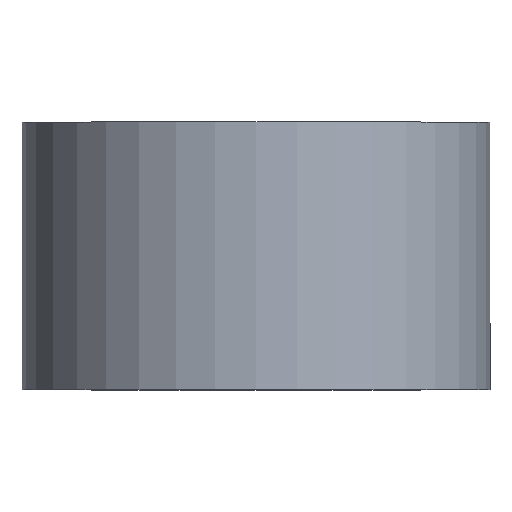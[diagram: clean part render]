
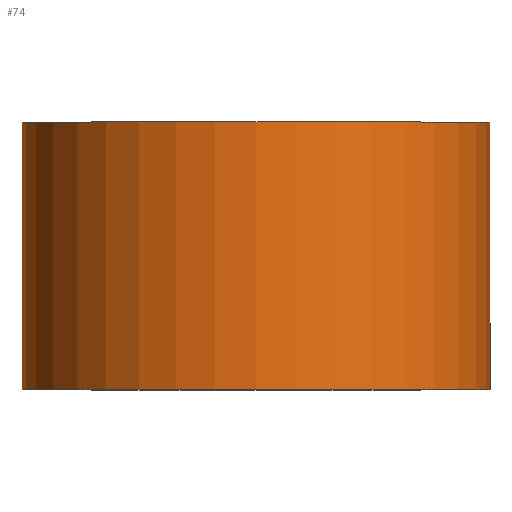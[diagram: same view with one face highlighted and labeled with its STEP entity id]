
A CAD part, top view. The second image highlights one B-rep face of the part: STEP entity #74.
In plain terms, the highlighted cylindrical face has radius 17.5 mm (diameter 35 mm), a partial arc.
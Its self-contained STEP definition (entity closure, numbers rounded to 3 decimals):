
#8 = ORIENTED_EDGE ( 'NONE', *, *, #127, .F. ) ;
#13 = VERTEX_POINT ( 'NONE', #14 ) ;
#14 = CARTESIAN_POINT ( 'NONE',  ( 17.5, 0., 0. ) ) ;
#22 = DIRECTION ( 'NONE',  ( 0., 1., 0. ) ) ;
#33 = CARTESIAN_POINT ( 'NONE',  ( 0., 20., 0. ) ) ;
#35 = VECTOR ( 'NONE', #91, 1000. ) ;
#53 = VERTEX_POINT ( 'NONE', #199 ) ;
#61 = DIRECTION ( 'NONE',  ( -1., 0., 0. ) ) ;
#70 = ORIENTED_EDGE ( 'NONE', *, *, #90, .T. ) ;
#74 = ADVANCED_FACE ( 'NONE', ( #283 ), #171, .T. ) ;
#78 = EDGE_LOOP ( 'NONE', ( #125, #70, #8, #278 ) ) ;
#81 = LINE ( 'NONE', #209, #149 ) ;
#86 = DIRECTION ( 'NONE',  ( 0., 1., 0. ) ) ;
#90 = EDGE_CURVE ( 'NONE', #13, #192, #105, .T. ) ;
#91 = DIRECTION ( 'NONE',  ( 0., 1., 0. ) ) ;
#103 = VERTEX_POINT ( 'NONE', #274 ) ;
#105 = LINE ( 'NONE', #141, #35 ) ;
#125 = ORIENTED_EDGE ( 'NONE', *, *, #170, .T. ) ;
#127 = EDGE_CURVE ( 'NONE', #103, #192, #237, .T. ) ;
#141 = CARTESIAN_POINT ( 'NONE',  ( 17.5, 0., 0. ) ) ;
#149 = VECTOR ( 'NONE', #229, 1000. ) ;
#159 = DIRECTION ( 'NONE',  ( -1., 0., 0. ) ) ;
#170 = EDGE_CURVE ( 'NONE', #53, #13, #212, .T. ) ;
#171 = CYLINDRICAL_SURFACE ( 'NONE', #243, 17.5 ) ;
#192 = VERTEX_POINT ( 'NONE', #282 ) ;
#199 = CARTESIAN_POINT ( 'NONE',  ( -17.5, 0., 0. ) ) ;
#209 = CARTESIAN_POINT ( 'NONE',  ( -17.5, 0., 0. ) ) ;
#212 = CIRCLE ( 'NONE', #260, 17.5 ) ;
#220 = CARTESIAN_POINT ( 'NONE',  ( 0., 0., 0. ) ) ;
#229 = DIRECTION ( 'NONE',  ( 0., 1., 0. ) ) ;
#230 = CARTESIAN_POINT ( 'NONE',  ( 0., 0., 0. ) ) ;
#232 = DIRECTION ( 'NONE',  ( -1., 0., 0. ) ) ;
#237 = CIRCLE ( 'NONE', #296, 17.5 ) ;
#243 = AXIS2_PLACEMENT_3D ( 'NONE', #220, #86, #159 ) ;
#249 = DIRECTION ( 'NONE',  ( 0., 1., 0. ) ) ;
#260 = AXIS2_PLACEMENT_3D ( 'NONE', #230, #22, #232 ) ;
#274 = CARTESIAN_POINT ( 'NONE',  ( -17.5, 20., 0. ) ) ;
#278 = ORIENTED_EDGE ( 'NONE', *, *, #286, .F. ) ;
#282 = CARTESIAN_POINT ( 'NONE',  ( 17.5, 20., 0. ) ) ;
#283 = FACE_OUTER_BOUND ( 'NONE', #78, .T. ) ;
#286 = EDGE_CURVE ( 'NONE', #53, #103, #81, .T. ) ;
#296 = AXIS2_PLACEMENT_3D ( 'NONE', #33, #249, #61 ) ;
